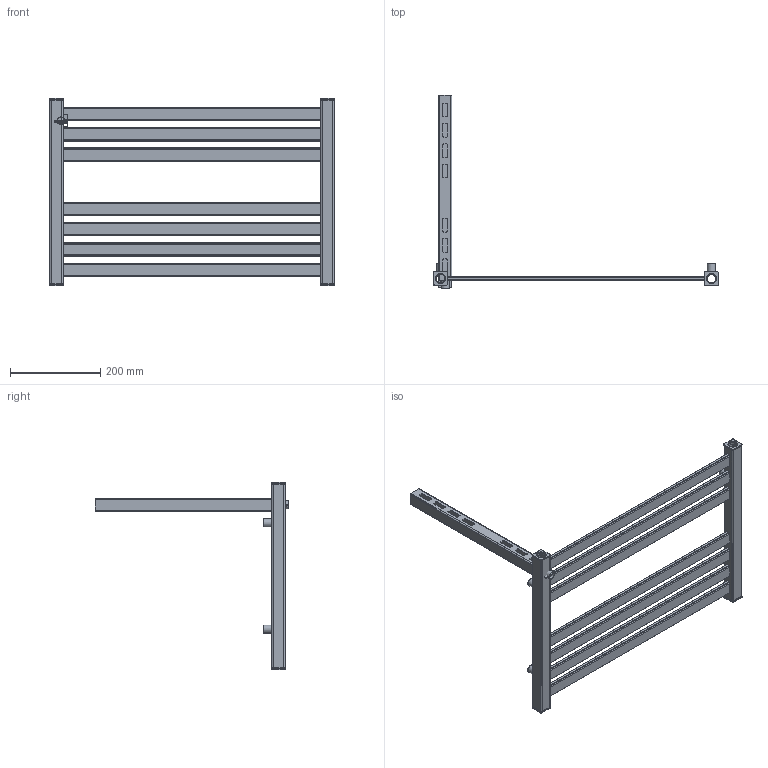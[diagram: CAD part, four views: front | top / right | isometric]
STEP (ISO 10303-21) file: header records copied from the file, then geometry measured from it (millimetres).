
FILE_DESCRIPTION( ( 'Unknown' ), '1' );
FILE_NAME( 'D:/Alplast sp. j/Witryna zespoBu - Projekty/Archiwum/Grzejniki Archiwum/Projekty/STANDARD/AK-EP/AK1-600EP.stp', 'Unknown', ( 'Unknown' ), ( 'Unknown' ), 'PSStep 10.1', 'Unknown', ' ' );
FILE_SCHEMA( ( 'AUTOMOTIVE_DESIGN { 1 0 10303 214 1 1 1 1 }' ) );
Length unit declared in the file: millimetre
Products named in the file (5): Assem1; AK1-EPEL; zaslepka kwadrat otwor; kana³  poziomy 30x10  600; mocowanie
Bounding box: 630 x 429 x 415.13 mm (x, y, z)
Volume: 708684.4 mm3; surface area: 948106.1 mm2
Topology: 21 solids, 21 shells, 474 faces, 1266 edges, 844 vertices
Faces by surface type: plane 264, cylinder 200, torus 10
Full cylindrical faces by diameter (mm): 16 x5, 18 x5, 18.631 x5, 23 x5
Entity records: 4796 total; most frequent: DIRECTION 684, CARTESIAN_POINT 654, ORIENTED_EDGE 620, EDGE_CURVE 310, AXIS2_PLACEMENT_3D 240, VERTEX_POINT 210, LINE 204, VECTOR 204
